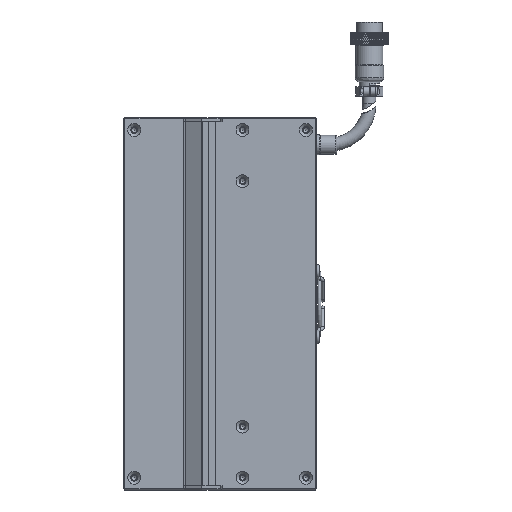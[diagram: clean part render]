
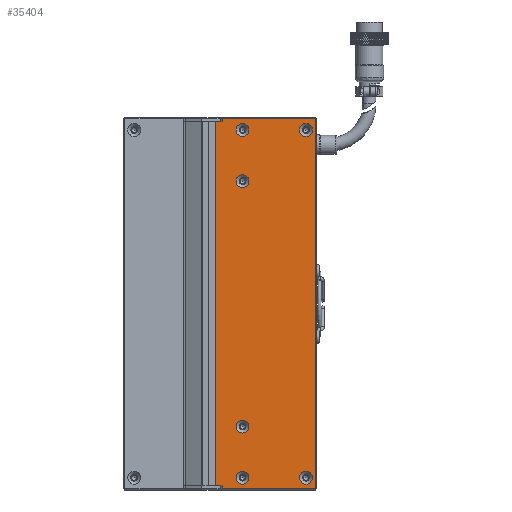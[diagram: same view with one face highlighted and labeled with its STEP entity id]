
A CAD part, left-side view. The second image highlights one B-rep face of the part: STEP entity #35404.
In plain terms, the highlighted planar face has unit normal (-1, 0, 0).
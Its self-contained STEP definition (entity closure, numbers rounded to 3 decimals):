
#807 = VERTEX_POINT ( 'NONE', #53838 ) ;
#878 = AXIS2_PLACEMENT_3D ( 'NONE', #62636, #43840, #34314 ) ;
#1621 = EDGE_CURVE ( 'NONE', #87174, #87174, #52224, .T. ) ;
#1880 = DIRECTION ( 'NONE',  ( -1., 0., 0. ) ) ;
#2108 = CARTESIAN_POINT ( 'NONE',  ( -24.998, -72., 89. ) ) ;
#3036 = AXIS2_PLACEMENT_3D ( 'NONE', #34151, #81277, #98099 ) ;
#3668 = VECTOR ( 'NONE', #55458, 1000. ) ;
#4891 = DIRECTION ( 'NONE',  ( 0., -1., 0. ) ) ;
#5142 = EDGE_CURVE ( 'NONE', #12769, #12769, #68464, .T. ) ;
#5257 = DIRECTION ( 'NONE',  ( -1., 0., 0. ) ) ;
#5582 = ORIENTED_EDGE ( 'NONE', *, *, #46818, .T. ) ;
#8752 = LINE ( 'NONE', #2108, #10256 ) ;
#10256 = VECTOR ( 'NONE', #92890, 1000. ) ;
#10680 = DIRECTION ( 'NONE',  ( 0., 0., 1. ) ) ;
#12769 = VERTEX_POINT ( 'NONE', #60442 ) ;
#13072 = ORIENTED_EDGE ( 'NONE', *, *, #118267, .F. ) ;
#14062 = FACE_BOUND ( 'NONE', #24705, .T. ) ;
#15892 = VERTEX_POINT ( 'NONE', #111275 ) ;
#17102 = CARTESIAN_POINT ( 'NONE',  ( -24.998, -72., -90.5 ) ) ;
#17873 = EDGE_LOOP ( 'NONE', ( #55044 ) ) ;
#19160 = CARTESIAN_POINT ( 'NONE',  ( -24.998, -36.5, -81.85 ) ) ;
#19183 = AXIS2_PLACEMENT_3D ( 'NONE', #48321, #103115, #21477 ) ;
#19864 = VERTEX_POINT ( 'NONE', #115291 ) ;
#20654 = DIRECTION ( 'NONE',  ( 0., -1., 0. ) ) ;
#21069 = CARTESIAN_POINT ( 'NONE',  ( -24.998, -72.5, 89. ) ) ;
#21477 = DIRECTION ( 'NONE',  ( 0., 0., 1. ) ) ;
#22057 = CARTESIAN_POINT ( 'NONE',  ( -24.998, -72.5, -89. ) ) ;
#24705 = EDGE_LOOP ( 'NONE', ( #60753 ) ) ;
#26713 = LINE ( 'NONE', #95520, #68157 ) ;
#27484 = CARTESIAN_POINT ( 'NONE',  ( -24.998, -23.25, -89. ) ) ;
#27938 = CARTESIAN_POINT ( 'NONE',  ( -24.998, -26.5, 89. ) ) ;
#31265 = VERTEX_POINT ( 'NONE', #27938 ) ;
#33641 = EDGE_CURVE ( 'NONE', #19864, #19864, #61443, .T. ) ;
#34151 = CARTESIAN_POINT ( 'NONE',  ( -24.998, -36.5, -60. ) ) ;
#34314 = DIRECTION ( 'NONE',  ( 0., 0., 1. ) ) ;
#34692 = EDGE_CURVE ( 'NONE', #38514, #38514, #57019, .T. ) ;
#34886 = EDGE_LOOP ( 'NONE', ( #102233 ) ) ;
#35404 = ADVANCED_FACE ( 'NONE', ( #44136, #84246, #14062, #105646, #78487, #54101, #51223 ), #52782, .F. ) ;
#36274 = ORIENTED_EDGE ( 'NONE', *, *, #65775, .F. ) ;
#38514 = VERTEX_POINT ( 'NONE', #96112 ) ;
#39816 = DIRECTION ( 'NONE',  ( 0., 0., -1. ) ) ;
#40962 = CARTESIAN_POINT ( 'NONE',  ( -24.998, -26.5, -82. ) ) ;
#41339 = VECTOR ( 'NONE', #10680, 1000. ) ;
#42395 = DIRECTION ( 'NONE',  ( 1., 0., 0. ) ) ;
#43568 = DIRECTION ( 'NONE',  ( 0., 0., -1. ) ) ;
#43840 = DIRECTION ( 'NONE',  ( -1., 0., 0. ) ) ;
#44136 = FACE_BOUND ( 'NONE', #86834, .T. ) ;
#44834 = ORIENTED_EDGE ( 'NONE', *, *, #56615, .T. ) ;
#45031 = EDGE_CURVE ( 'NONE', #53859, #53859, #97534, .T. ) ;
#45489 = CARTESIAN_POINT ( 'NONE',  ( -24.998, -72., 90.5 ) ) ;
#45996 = LINE ( 'NONE', #22057, #68963 ) ;
#46019 = EDGE_LOOP ( 'NONE', ( #114050 ) ) ;
#46581 = CARTESIAN_POINT ( 'NONE',  ( -24.998, -26.5, 90.5 ) ) ;
#46818 = EDGE_CURVE ( 'NONE', #68910, #15892, #45996, .T. ) ;
#47420 = CARTESIAN_POINT ( 'NONE',  ( -24.998, -36.5, 60. ) ) ;
#47453 = CARTESIAN_POINT ( 'NONE',  ( -24.998, -72.5, -90.5 ) ) ;
#47642 = ORIENTED_EDGE ( 'NONE', *, *, #106508, .T. ) ;
#47848 = EDGE_LOOP ( 'NONE', ( #5582, #47642, #94969, #75094, #44834, #93705, #13072, #36274 ) ) ;
#48321 = CARTESIAN_POINT ( 'NONE',  ( -24.998, -67.5, -85. ) ) ;
#49130 = VERTEX_POINT ( 'NONE', #78057 ) ;
#49597 = ORIENTED_EDGE ( 'NONE', *, *, #45031, .F. ) ;
#51223 = FACE_OUTER_BOUND ( 'NONE', #47848, .T. ) ;
#51807 = AXIS2_PLACEMENT_3D ( 'NONE', #59998, #5257, #69208 ) ;
#52224 = CIRCLE ( 'NONE', #51807, 3.15 ) ;
#52238 = VERTEX_POINT ( 'NONE', #46581 ) ;
#52782 = PLANE ( 'NONE',  #108902 ) ;
#53838 = CARTESIAN_POINT ( 'NONE',  ( -24.998, -26.5, -90.5 ) ) ;
#53859 = VERTEX_POINT ( 'NONE', #71634 ) ;
#53970 = LINE ( 'NONE', #40962, #92703 ) ;
#54101 = FACE_BOUND ( 'NONE', #17873, .T. ) ;
#55044 = ORIENTED_EDGE ( 'NONE', *, *, #5142, .F. ) ;
#55458 = DIRECTION ( 'NONE',  ( 0., 1., 0. ) ) ;
#56608 = DIRECTION ( 'NONE',  ( 0., 0., 1. ) ) ;
#56615 = EDGE_CURVE ( 'NONE', #81836, #52238, #73743, .T. ) ;
#57019 = CIRCLE ( 'NONE', #19183, 3.15 ) ;
#57024 = CARTESIAN_POINT ( 'NONE',  ( -24.998, -36.5, -85. ) ) ;
#57405 = DIRECTION ( 'NONE',  ( -1., 0., 0. ) ) ;
#59998 = CARTESIAN_POINT ( 'NONE',  ( -24.998, -67.5, 85. ) ) ;
#60442 = CARTESIAN_POINT ( 'NONE',  ( -24.998, -36.5, -56.85 ) ) ;
#60753 = ORIENTED_EDGE ( 'NONE', *, *, #1621, .F. ) ;
#61443 = CIRCLE ( 'NONE', #878, 3.15 ) ;
#61883 = EDGE_CURVE ( 'NONE', #103339, #81836, #8752, .T. ) ;
#62636 = CARTESIAN_POINT ( 'NONE',  ( -24.998, -36.5, 85. ) ) ;
#64649 = DIRECTION ( 'NONE',  ( 0., -1., 0. ) ) ;
#65775 = EDGE_CURVE ( 'NONE', #68910, #49130, #112887, .T. ) ;
#68157 = VECTOR ( 'NONE', #115075, 1000. ) ;
#68455 = VECTOR ( 'NONE', #64649, 1000. ) ;
#68464 = CIRCLE ( 'NONE', #3036, 3.15 ) ;
#68910 = VERTEX_POINT ( 'NONE', #115393 ) ;
#68963 = VECTOR ( 'NONE', #4891, 1000. ) ;
#69208 = DIRECTION ( 'NONE',  ( 0., 0., 1. ) ) ;
#70452 = CARTESIAN_POINT ( 'NONE',  ( -24.998, -67.5, 88.15 ) ) ;
#71634 = CARTESIAN_POINT ( 'NONE',  ( -24.998, -36.5, 63.15 ) ) ;
#73091 = CARTESIAN_POINT ( 'NONE',  ( -24.998, -72.5, 90.5 ) ) ;
#73743 = LINE ( 'NONE', #73091, #3668 ) ;
#75094 = ORIENTED_EDGE ( 'NONE', *, *, #61883, .T. ) ;
#75513 = CIRCLE ( 'NONE', #107178, 3.15 ) ;
#76851 = EDGE_CURVE ( 'NONE', #52238, #31265, #26713, .T. ) ;
#78057 = CARTESIAN_POINT ( 'NONE',  ( -24.998, -23.25, 89. ) ) ;
#78487 = FACE_BOUND ( 'NONE', #46019, .T. ) ;
#81277 = DIRECTION ( 'NONE',  ( -1., 0., 0. ) ) ;
#81836 = VERTEX_POINT ( 'NONE', #45489 ) ;
#82948 = VECTOR ( 'NONE', #20654, 1000. ) ;
#84246 = FACE_BOUND ( 'NONE', #34886, .T. ) ;
#86834 = EDGE_LOOP ( 'NONE', ( #87549 ) ) ;
#87174 = VERTEX_POINT ( 'NONE', #70452 ) ;
#87549 = ORIENTED_EDGE ( 'NONE', *, *, #34692, .F. ) ;
#88529 = LINE ( 'NONE', #47453, #68455 ) ;
#91195 = EDGE_LOOP ( 'NONE', ( #49597 ) ) ;
#91552 = LINE ( 'NONE', #21069, #82948 ) ;
#92107 = VERTEX_POINT ( 'NONE', #19160 ) ;
#92245 = DIRECTION ( 'NONE',  ( 0., 0., 1. ) ) ;
#92703 = VECTOR ( 'NONE', #39816, 1000. ) ;
#92890 = DIRECTION ( 'NONE',  ( 0., 0., 1. ) ) ;
#93705 = ORIENTED_EDGE ( 'NONE', *, *, #76851, .T. ) ;
#94969 = ORIENTED_EDGE ( 'NONE', *, *, #102907, .T. ) ;
#95520 = CARTESIAN_POINT ( 'NONE',  ( -24.998, -26.5, 82. ) ) ;
#96112 = CARTESIAN_POINT ( 'NONE',  ( -24.998, -67.5, -81.85 ) ) ;
#97534 = CIRCLE ( 'NONE', #102476, 3.15 ) ;
#98099 = DIRECTION ( 'NONE',  ( 0., 0., 1. ) ) ;
#102233 = ORIENTED_EDGE ( 'NONE', *, *, #106444, .F. ) ;
#102476 = AXIS2_PLACEMENT_3D ( 'NONE', #47420, #1880, #92245 ) ;
#102907 = EDGE_CURVE ( 'NONE', #807, #103339, #88529, .T. ) ;
#103115 = DIRECTION ( 'NONE',  ( -1., 0., 0. ) ) ;
#103339 = VERTEX_POINT ( 'NONE', #17102 ) ;
#105646 = FACE_BOUND ( 'NONE', #91195, .T. ) ;
#106444 = EDGE_CURVE ( 'NONE', #92107, #92107, #75513, .T. ) ;
#106508 = EDGE_CURVE ( 'NONE', #15892, #807, #53970, .T. ) ;
#106774 = CARTESIAN_POINT ( 'NONE',  ( -24.998, -72.5, 89. ) ) ;
#107178 = AXIS2_PLACEMENT_3D ( 'NONE', #57024, #57405, #56608 ) ;
#108902 = AXIS2_PLACEMENT_3D ( 'NONE', #106774, #42395, #43568 ) ;
#111275 = CARTESIAN_POINT ( 'NONE',  ( -24.998, -26.5, -89. ) ) ;
#112887 = LINE ( 'NONE', #27484, #41339 ) ;
#114050 = ORIENTED_EDGE ( 'NONE', *, *, #33641, .F. ) ;
#115075 = DIRECTION ( 'NONE',  ( 0., 0., -1. ) ) ;
#115291 = CARTESIAN_POINT ( 'NONE',  ( -24.998, -36.5, 88.15 ) ) ;
#115393 = CARTESIAN_POINT ( 'NONE',  ( -24.998, -23.25, -89. ) ) ;
#118267 = EDGE_CURVE ( 'NONE', #49130, #31265, #91552, .T. ) ;
